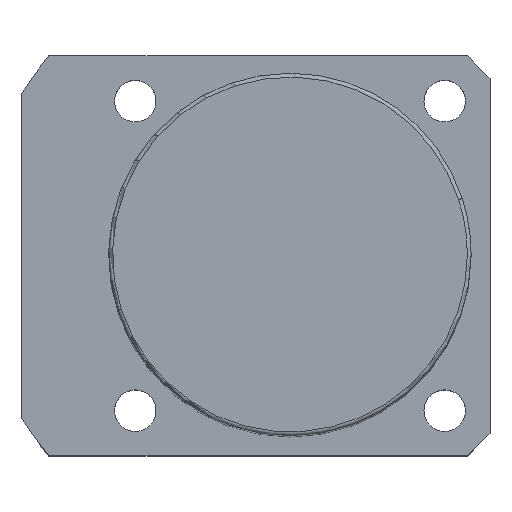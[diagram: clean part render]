
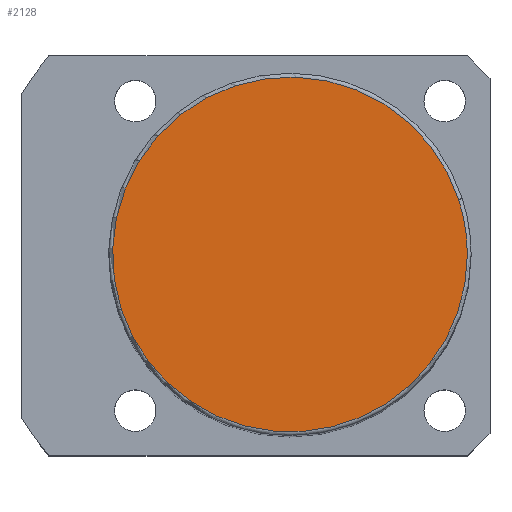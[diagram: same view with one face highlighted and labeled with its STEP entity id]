
A CAD part, top view. The second image highlights one B-rep face of the part: STEP entity #2128.
In plain terms, the highlighted planar face has unit normal (0, 0, 1).
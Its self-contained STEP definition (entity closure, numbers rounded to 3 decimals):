
#2061=CARTESIAN_POINT('',(22.35,7.262,119.0));
#2062=VERTEX_POINT('',#2061);
#2080=CARTESIAN_POINT('',(-22.35,-7.262,119.0));
#2081=VERTEX_POINT('',#2080);
#2089=CARTESIAN_POINT('',(0.0,0.0,119.0));
#2090=DIRECTION('',(0.0,0.0,1.0));
#2091=DIRECTION('',(1.0,0.0,0.0));
#2092=AXIS2_PLACEMENT_3D('',#2089,#2090,#2091);
#2093=CIRCLE('',#2092,23.5);
#2094=EDGE_CURVE('no 2113',#2062,#2081,#2093,.T.);
#2104=CARTESIAN_POINT('',(23.5,0.0,119.0));
#2105=VERTEX_POINT('',#2104);
#2106=CARTESIAN_POINT('',(0.0,0.0,119.0));
#2107=DIRECTION('',(0.0,0.0,1.0));
#2108=DIRECTION('',(1.0,0.0,0.0));
#2109=AXIS2_PLACEMENT_3D('',#2106,#2107,#2108);
#2110=CIRCLE('',#2109,23.5);
#2111=EDGE_CURVE('no 2122',#2105,#2062,#2110,.T.);
#2112=ORIENTED_EDGE('',*,*,#2111,.T.);
#2113=ORIENTED_EDGE('',*,*,#2094,.T.);
#2114=CARTESIAN_POINT('',(0.0,0.0,119.0));
#2115=DIRECTION('',(0.0,0.0,1.0));
#2116=DIRECTION('',(1.0,0.0,0.0));
#2117=AXIS2_PLACEMENT_3D('',#2114,#2115,#2116);
#2118=CIRCLE('',#2117,23.5);
#2119=EDGE_CURVE('no 2128',#2081,#2105,#2118,.T.);
#2120=ORIENTED_EDGE('',*,*,#2119,.T.);
#2121=EDGE_LOOP('',(#2112,#2113,#2120));
#2122=FACE_OUTER_BOUND('',#2121,.T.);
#2123=CARTESIAN_POINT('',(0.0,0.0,119.0));
#2124=DIRECTION('',(0.0,0.0,1.0));
#2125=DIRECTION('',(1.0,0.0,0.0));
#2126=AXIS2_PLACEMENT_3D('',#2123,#2124,#2125);
#2127=PLANE('',#2126);
#2128=ADVANCED_FACE('no 2115',(#2122),#2127,.T.);
